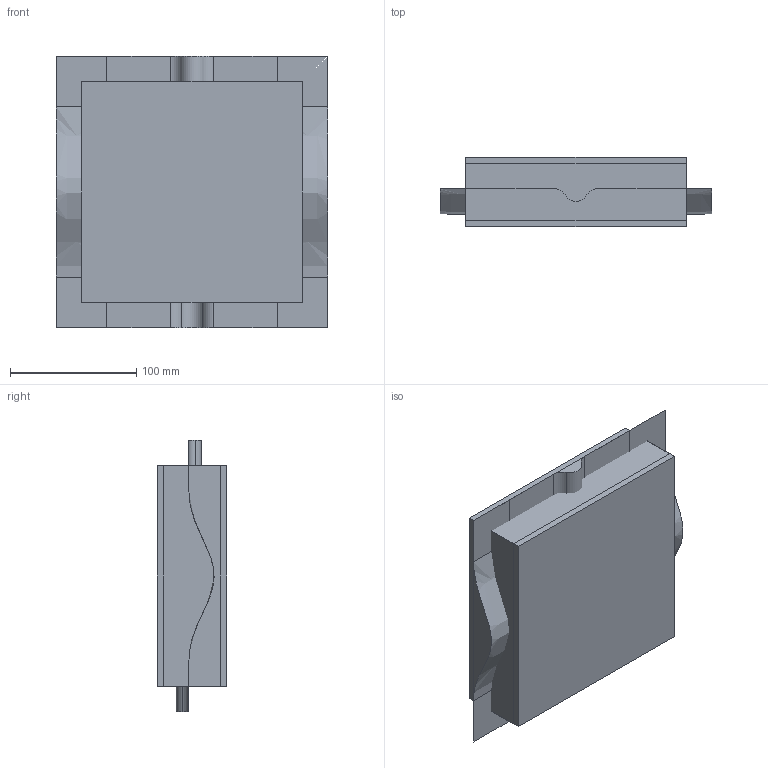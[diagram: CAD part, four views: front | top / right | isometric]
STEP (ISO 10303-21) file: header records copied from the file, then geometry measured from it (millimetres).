
FILE_DESCRIPTION(('CATIA V5 STEP Exchange'),'2;1');
FILE_NAME('C:\_Andres\UNIVERSIDAD\IQS\ASIGNATURAS\DAO\EXF\EXF-16172c\2inicio\Uria_Ciurana_Ej02_v35.stp','2017-03-05T15:45:42+00:00',('none'),('none'),'CATIA Version 5-6 Release 2014 SP1 HF18','CATIA V5 STEP AP203','none');
FILE_SCHEMA(('CONFIG_CONTROL_DESIGN'));
Length unit declared in the file: millimetre
Products named in the file (1): Uria_Ciurana_Ej02_v35
Bounding box: 215 x 55 x 215 mm (x, y, z)
Surface area: 302112.9 mm2
Topology: 3 solids, 10 shells, 72 faces, 205 edges, 150 vertices
Faces by surface type: bspline 32, plane 32, cylinder 6, extrusion 2
Entity records: 5780 total; most frequent: CARTESIAN_POINT 4463, ORIENTED_EDGE 288, DIRECTION 151, EDGE_CURVE 132, VERTEX_POINT 84, VECTOR 77, LINE 75, ADVANCED_FACE 72
